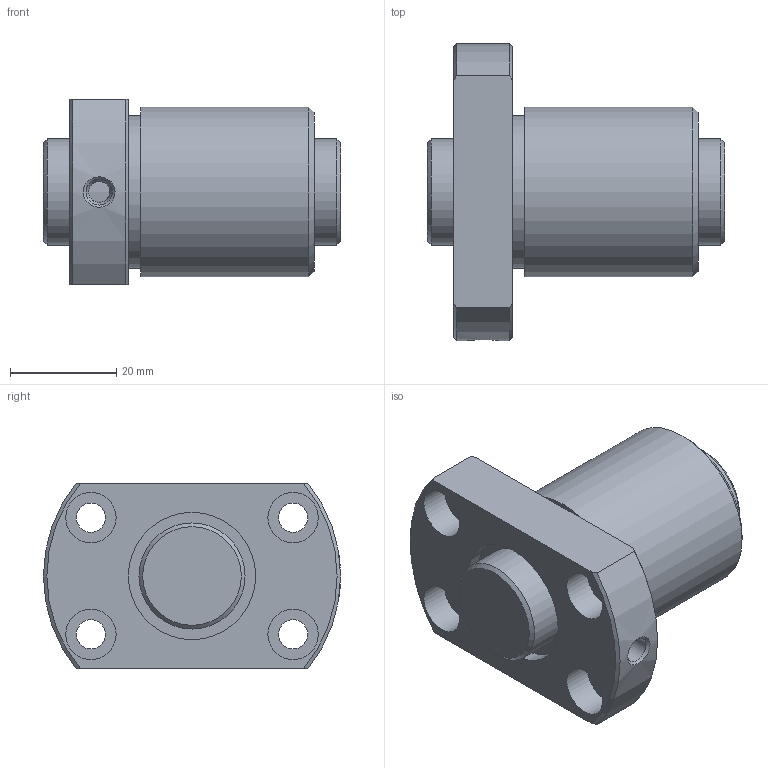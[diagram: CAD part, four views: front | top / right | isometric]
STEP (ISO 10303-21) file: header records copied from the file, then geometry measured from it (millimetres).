
FILE_DESCRIPTION(/* description */ ('STEP AP203'),/* implementation_level */ '2;1');
FILE_NAME(/* name */ 'DK2004-4RRG1+56LC0_000',/* time_stamp */ '2025-01-13T09:08:14+01:00',/* author */ ('License CC BY-ND 4.0'),/* organization */ ('CADENAS'),/* preprocessor_version */ 'ST-DEVELOPER v19.3',/* originating_system */ 'PARTsolutions',/* authorisation */ ' ');
FILE_SCHEMA (('CONFIG_CONTROL_DESIGN'));
Length unit declared in the file: millimetre
Products named in the file (3): DK2004-4RRG1+56LC0_000; DK 2004-4RR05600 Shaft; DK 2004-4RR0Nut
Assembly tree (2 placements, depth 2):
  DK2004-4RRG1+56LC0_000
    DK 2004-4RR05600 Shaft
    DK 2004-4RR0Nut
Bounding box: 56 x 56 x 35 mm (x, y, z)
Volume: 47826 mm3; surface area: 16608.5 mm2
Topology: 2 solids, 2 shells, 41 faces, 83 edges, 54 vertices
Faces by surface type: cylinder 18, plane 14, cone 9
Full cylindrical faces by diameter (mm): 4 x1, 4.917 x1, 5.5 x4, 9.5 x4, 20 x2, 24 x2, 28.8 x1, 32 x1
Entity records: 1087 total; most frequent: CARTESIAN_POINT 200, DIRECTION 180, ORIENTED_EDGE 120, AXIS2_PLACEMENT_3D 86, EDGE_LOOP 82, FACE_BOUND 82, EDGE_CURVE 60, VERTEX_POINT 52
